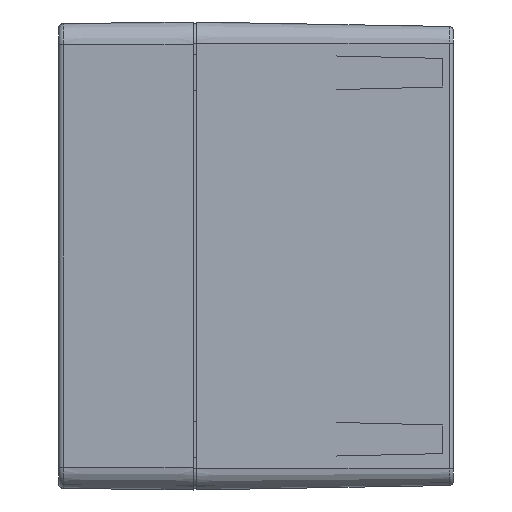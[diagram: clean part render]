
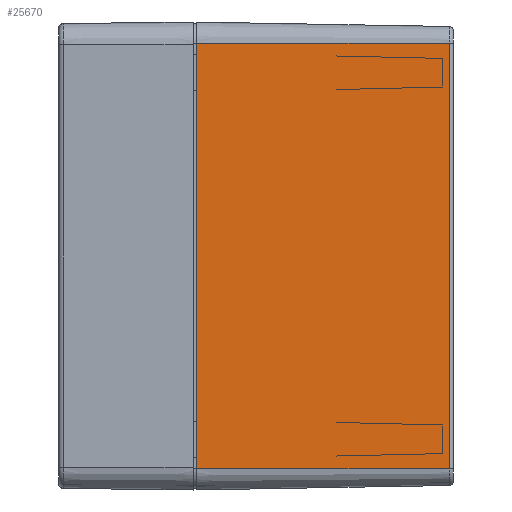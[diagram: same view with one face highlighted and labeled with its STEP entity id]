
A CAD part, left-side view. The second image highlights one B-rep face of the part: STEP entity #25670.
In plain terms, the highlighted planar face has unit normal (-1, -0.018, 0).
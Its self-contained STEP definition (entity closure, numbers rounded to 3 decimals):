
#895 = VERTEX_POINT ( 'NONE', #30781 ) ;
#1413 = CARTESIAN_POINT ( 'NONE',  ( -176.237, -78.072, 64.8 ) ) ;
#3194 = CARTESIAN_POINT ( 'NONE',  ( -177.583, -1., 64.8 ) ) ;
#5532 = ORIENTED_EDGE ( 'NONE', *, *, #11932, .T. ) ;
#6395 = VERTEX_POINT ( 'NONE', #3194 ) ;
#6885 = VECTOR ( 'NONE', #29892, 1000. ) ;
#7306 = VECTOR ( 'NONE', #55840, 1000. ) ;
#9067 = EDGE_CURVE ( 'NONE', #38436, #6395, #22025, .T. ) ;
#10193 = DIRECTION ( 'NONE',  ( -1., -0.017, 0. ) ) ;
#11932 = EDGE_CURVE ( 'NONE', #60934, #38436, #36621, .T. ) ;
#12746 = ORIENTED_EDGE ( 'NONE', *, *, #39268, .F. ) ;
#15722 = DIRECTION ( 'NONE',  ( -0.017, 1., 0. ) ) ;
#17627 = ORIENTED_EDGE ( 'NONE', *, *, #9067, .T. ) ;
#22025 = LINE ( 'NONE', #41249, #59597 ) ;
#22146 = CARTESIAN_POINT ( 'NONE',  ( -176.237, -78.072, 64.8 ) ) ;
#25670 = ADVANCED_FACE ( 'NONE', ( #39790 ), #34116, .T. ) ;
#26096 = CARTESIAN_POINT ( 'NONE',  ( -177.6, 0., -64.8 ) ) ;
#28631 = CARTESIAN_POINT ( 'NONE',  ( -177.583, -1., 64.8 ) ) ;
#28947 = DIRECTION ( 'NONE',  ( 0., 0., -1. ) ) ;
#29892 = DIRECTION ( 'NONE',  ( -0.017, 1., 0. ) ) ;
#30781 = CARTESIAN_POINT ( 'NONE',  ( -177.583, -1., -64.8 ) ) ;
#33809 = CARTESIAN_POINT ( 'NONE',  ( -177.6, 0., 64.8 ) ) ;
#34116 = PLANE ( 'NONE',  #39955 ) ;
#36621 = LINE ( 'NONE', #22146, #7306 ) ;
#38211 = VECTOR ( 'NONE', #28947, 1000. ) ;
#38436 = VERTEX_POINT ( 'NONE', #1413 ) ;
#39268 = EDGE_CURVE ( 'NONE', #60934, #895, #40606, .T. ) ;
#39790 = FACE_OUTER_BOUND ( 'NONE', #57346, .T. ) ;
#39955 = AXIS2_PLACEMENT_3D ( 'NONE', #33809, #10193, #58073 ) ;
#40606 = LINE ( 'NONE', #26096, #6885 ) ;
#41249 = CARTESIAN_POINT ( 'NONE',  ( -177.6, 0., 64.8 ) ) ;
#42835 = EDGE_CURVE ( 'NONE', #6395, #895, #61724, .T. ) ;
#43164 = CARTESIAN_POINT ( 'NONE',  ( -176.237, -78.072, -64.8 ) ) ;
#55840 = DIRECTION ( 'NONE',  ( 0., 0., 1. ) ) ;
#55998 = ORIENTED_EDGE ( 'NONE', *, *, #42835, .T. ) ;
#57346 = EDGE_LOOP ( 'NONE', ( #17627, #55998, #12746, #5532 ) ) ;
#58073 = DIRECTION ( 'NONE',  ( 0.017, -1., 0. ) ) ;
#59597 = VECTOR ( 'NONE', #15722, 1000. ) ;
#60934 = VERTEX_POINT ( 'NONE', #43164 ) ;
#61724 = LINE ( 'NONE', #28631, #38211 ) ;
